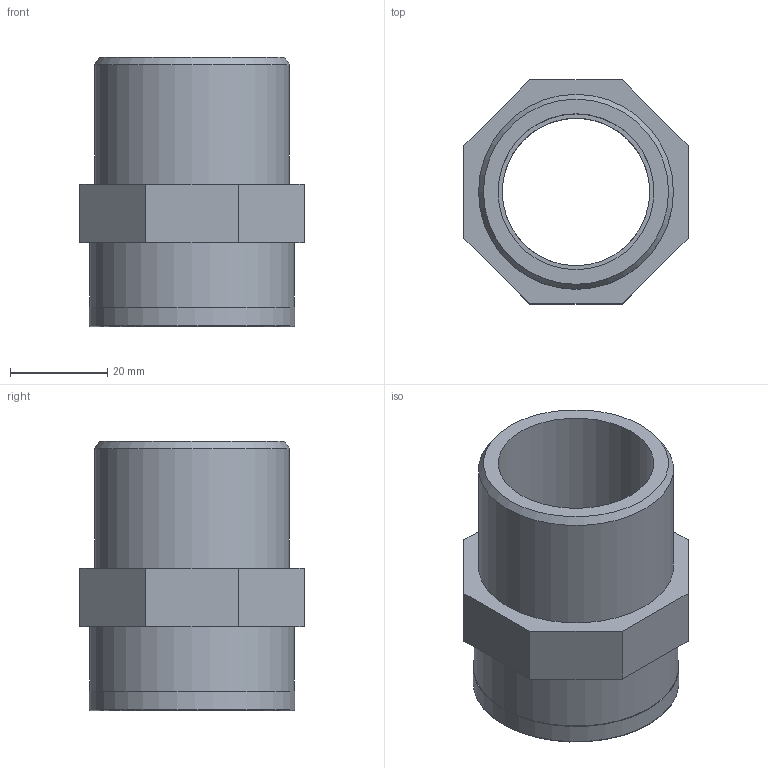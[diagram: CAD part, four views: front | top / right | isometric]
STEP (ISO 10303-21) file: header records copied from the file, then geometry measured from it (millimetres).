
FILE_DESCRIPTION(/* description */ (''),/* implementation_level */ '2;1');
FILE_NAME(/* name */ 'C:\Users\POLYPIPE\Desktop\DATASET INVENTOR\LIBRERIA EFFAST\RACCORDI 3DxWEB\RGR\3D_RGRAFR\3D_RGRAFR040D.stp',/* time_stamp */ '2018-01-19T17:31:08+01:00',/* author */ ('POLYPIPE'),/* organization */ (''),/* preprocessor_version */ 'ST-DEVELOPER v16.1',/* originating_system */ 'Autodesk Inventor 2016',/* authorisation */ '');
FILE_SCHEMA (('CONFIG_CONTROL_DESIGN'));
Length unit declared in the file: centimetre
Products named in the file (1): 3D_RGRAFR040D
Bounding box: 46 x 46 x 55.25 mm (x, y, z)
Volume: 34244.9 mm3; surface area: 16229 mm2
Topology: 1 solids, 1 shells, 29 faces, 64 edges, 42 vertices
Faces by surface type: plane 16, cylinder 6, bspline 5, cone 1, torus 1
Full cylindrical faces by diameter (mm): 30.291 x1, 32 x1, 37 x1, 40 x1, 42 x1, 42.3 x1
Entity records: 4158 total; most frequent: CARTESIAN_POINT 3508, DIRECTION 109, ORIENTED_EDGE 108, EDGE_CURVE 54, EDGE_LOOP 44, AXIS2_PLACEMENT_3D 41, VERTEX_POINT 40, STYLED_ITEM 30
